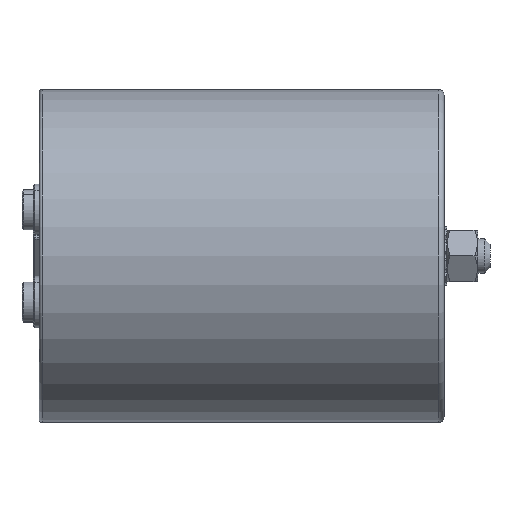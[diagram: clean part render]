
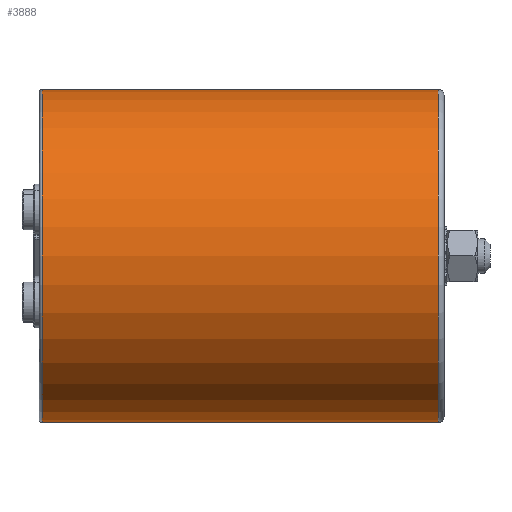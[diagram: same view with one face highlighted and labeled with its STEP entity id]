
A CAD part, left-side view. The second image highlights one B-rep face of the part: STEP entity #3888.
In plain terms, the highlighted cylindrical face has radius 58 mm (diameter 116 mm), a partial arc.
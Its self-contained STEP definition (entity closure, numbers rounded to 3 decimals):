
#72 = CARTESIAN_POINT ( 'NONE',  ( 0., -10., -58. ) ) ;
#177 = DIRECTION ( 'NONE',  ( 0., -1., 0. ) ) ;
#277 = VERTEX_POINT ( 'NONE', #3965 ) ;
#621 = VERTEX_POINT ( 'NONE', #7569 ) ;
#859 = CARTESIAN_POINT ( 'NONE',  ( 0., -10., 0. ) ) ;
#1058 = CIRCLE ( 'NONE', #5163, 58. ) ;
#1301 = VERTEX_POINT ( 'NONE', #5940 ) ;
#1816 = CARTESIAN_POINT ( 'NONE',  ( 0., -10., 58. ) ) ;
#1975 = ORIENTED_EDGE ( 'NONE', *, *, #3116, .T. ) ;
#2117 = CARTESIAN_POINT ( 'NONE',  ( 0., -139., 0. ) ) ;
#2276 = VERTEX_POINT ( 'NONE', #4993 ) ;
#2402 = ORIENTED_EDGE ( 'NONE', *, *, #3293, .F. ) ;
#3044 = DIRECTION ( 'NONE',  ( 0., 1., 0. ) ) ;
#3116 = EDGE_CURVE ( 'NONE', #277, #1301, #8083, .T. ) ;
#3293 = EDGE_CURVE ( 'NONE', #2276, #621, #5450, .T. ) ;
#3376 = EDGE_CURVE ( 'NONE', #2276, #277, #5850, .T. ) ;
#3845 = ORIENTED_EDGE ( 'NONE', *, *, #6788, .T. ) ;
#3888 = ADVANCED_FACE ( 'NONE', ( #5643 ), #8171, .T. ) ;
#3965 = CARTESIAN_POINT ( 'NONE',  ( 0., -139., 58. ) ) ;
#3994 = CARTESIAN_POINT ( 'NONE',  ( 0., -1., 0. ) ) ;
#4095 = DIRECTION ( 'NONE',  ( 0., 1., 0. ) ) ;
#4245 = VECTOR ( 'NONE', #3044, 1000. ) ;
#4638 = DIRECTION ( 'NONE',  ( 0., 0., 1. ) ) ;
#4993 = CARTESIAN_POINT ( 'NONE',  ( 0., -139., -58. ) ) ;
#5163 = AXIS2_PLACEMENT_3D ( 'NONE', #3994, #177, #4638 ) ;
#5450 = LINE ( 'NONE', #72, #6236 ) ;
#5643 = FACE_OUTER_BOUND ( 'NONE', #7086, .T. ) ;
#5850 = CIRCLE ( 'NONE', #7970, 58. ) ;
#5884 = DIRECTION ( 'NONE',  ( 0., 1., 0. ) ) ;
#5940 = CARTESIAN_POINT ( 'NONE',  ( 0., -1., 58. ) ) ;
#6236 = VECTOR ( 'NONE', #5884, 1000. ) ;
#6301 = ORIENTED_EDGE ( 'NONE', *, *, #3376, .T. ) ;
#6626 = DIRECTION ( 'NONE',  ( 0., 1., 0. ) ) ;
#6788 = EDGE_CURVE ( 'NONE', #1301, #621, #1058, .T. ) ;
#7086 = EDGE_LOOP ( 'NONE', ( #6301, #1975, #3845, #2402 ) ) ;
#7152 = AXIS2_PLACEMENT_3D ( 'NONE', #859, #4095, #7279 ) ;
#7279 = DIRECTION ( 'NONE',  ( 0., 0., -1. ) ) ;
#7569 = CARTESIAN_POINT ( 'NONE',  ( 0., -1., -58. ) ) ;
#7897 = DIRECTION ( 'NONE',  ( 0., 0., -1. ) ) ;
#7970 = AXIS2_PLACEMENT_3D ( 'NONE', #2117, #6626, #7897 ) ;
#8083 = LINE ( 'NONE', #1816, #4245 ) ;
#8171 = CYLINDRICAL_SURFACE ( 'NONE', #7152, 58. ) ;
